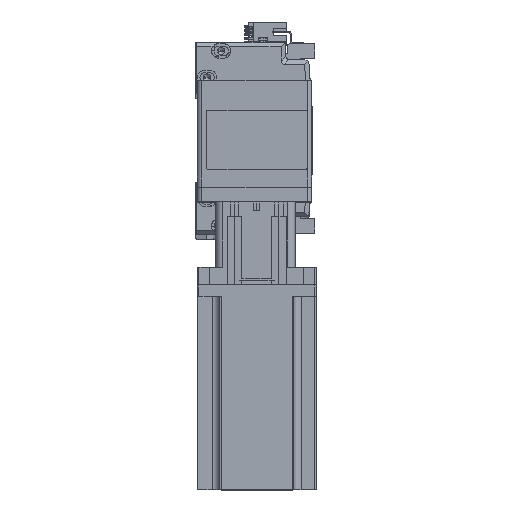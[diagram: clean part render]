
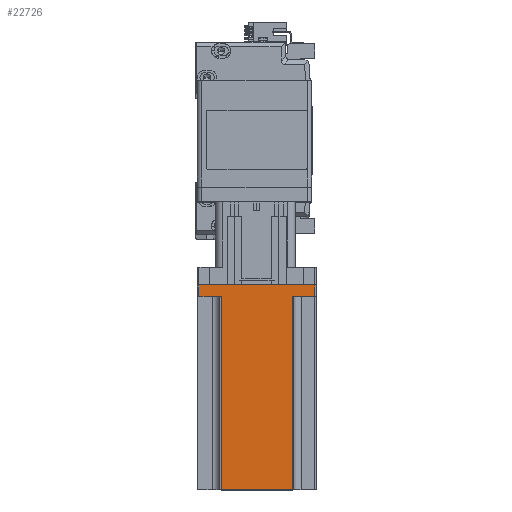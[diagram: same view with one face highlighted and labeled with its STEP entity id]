
A CAD part, top view. The second image highlights one B-rep face of the part: STEP entity #22726.
In plain terms, the highlighted planar face has unit normal (0, 0, 1) as drawn and (0, 1, 0) by its records, which use the part's own axes.
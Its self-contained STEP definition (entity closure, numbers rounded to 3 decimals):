
#1136 = EDGE_CURVE ( 'NONE', #40977, #34385, #40421, .T. ) ;
#2765 = CARTESIAN_POINT ( 'NONE',  ( 39., 40., 138.3 ) ) ;
#3936 = VERTEX_POINT ( 'NONE', #13795 ) ;
#4369 = VECTOR ( 'NONE', #7148, 1000. ) ;
#4620 = EDGE_CURVE ( 'NONE', #23847, #3936, #48119, .T. ) ;
#5743 = LINE ( 'NONE', #32390, #27992 ) ;
#5818 = VERTEX_POINT ( 'NONE', #35954 ) ;
#5836 = ORIENTED_EDGE ( 'NONE', *, *, #57021, .F. ) ;
#5862 = CARTESIAN_POINT ( 'NONE',  ( -39., 40., 8. ) ) ;
#7085 = VECTOR ( 'NONE', #39710, 1000. ) ;
#7148 = DIRECTION ( 'NONE',  ( 0., 0., -1. ) ) ;
#8146 = CARTESIAN_POINT ( 'NONE',  ( -25., 40., 8. ) ) ;
#9369 = EDGE_CURVE ( 'NONE', #5818, #24728, #39918, .T. ) ;
#10647 = LINE ( 'NONE', #2765, #21078 ) ;
#11606 = EDGE_CURVE ( 'NONE', #34385, #23847, #41564, .T. ) ;
#12630 = DIRECTION ( 'NONE',  ( 1., 0., 0. ) ) ;
#12924 = VECTOR ( 'NONE', #37686, 1000. ) ;
#13705 = EDGE_CURVE ( 'NONE', #3936, #27857, #5743, .T. ) ;
#13795 = CARTESIAN_POINT ( 'NONE',  ( -24., 40., 8. ) ) ;
#14965 = ORIENTED_EDGE ( 'NONE', *, *, #13705, .T. ) ;
#15861 = FACE_OUTER_BOUND ( 'NONE', #51097, .T. ) ;
#16229 = ORIENTED_EDGE ( 'NONE', *, *, #17056, .T. ) ;
#17056 = EDGE_CURVE ( 'NONE', #38352, #40977, #10647, .T. ) ;
#18806 = CARTESIAN_POINT ( 'NONE',  ( 40., 40., 138.3 ) ) ;
#18931 = LINE ( 'NONE', #35010, #7085 ) ;
#19100 = CARTESIAN_POINT ( 'NONE',  ( 24., 40., 8. ) ) ;
#20381 = CARTESIAN_POINT ( 'NONE',  ( 24., 40., 138.3 ) ) ;
#21078 = VECTOR ( 'NONE', #38436, 1000. ) ;
#21821 = DIRECTION ( 'NONE',  ( -1., 0., 0. ) ) ;
#22726 = ADVANCED_FACE ( 'NONE', ( #15861 ), #36349, .F. ) ;
#22993 = CARTESIAN_POINT ( 'NONE',  ( -24., 40., 138.3 ) ) ;
#23296 = DIRECTION ( 'NONE',  ( 1., 0., 0. ) ) ;
#23441 = DIRECTION ( 'NONE',  ( 0., 0., 1. ) ) ;
#23847 = VERTEX_POINT ( 'NONE', #5862 ) ;
#24459 = VECTOR ( 'NONE', #12630, 1000. ) ;
#24728 = VERTEX_POINT ( 'NONE', #19100 ) ;
#26906 = ORIENTED_EDGE ( 'NONE', *, *, #9369, .T. ) ;
#27857 = VERTEX_POINT ( 'NONE', #22993 ) ;
#27992 = VECTOR ( 'NONE', #23441, 1000. ) ;
#32390 = CARTESIAN_POINT ( 'NONE',  ( -24., 40., 138.3 ) ) ;
#33772 = CARTESIAN_POINT ( 'NONE',  ( -39., 40., 138.3 ) ) ;
#34385 = VERTEX_POINT ( 'NONE', #43412 ) ;
#35010 = CARTESIAN_POINT ( 'NONE',  ( 40., 40., 138.3 ) ) ;
#35255 = ORIENTED_EDGE ( 'NONE', *, *, #1136, .T. ) ;
#35954 = CARTESIAN_POINT ( 'NONE',  ( 24., 40., 138.3 ) ) ;
#36166 = ORIENTED_EDGE ( 'NONE', *, *, #44203, .F. ) ;
#36349 = PLANE ( 'NONE',  #36975 ) ;
#36660 = LINE ( 'NONE', #42204, #12924 ) ;
#36975 = AXIS2_PLACEMENT_3D ( 'NONE', #18806, #49978, #23296 ) ;
#37528 = CARTESIAN_POINT ( 'NONE',  ( 39., 40., 0. ) ) ;
#37686 = DIRECTION ( 'NONE',  ( -1., 0., 0. ) ) ;
#37816 = ORIENTED_EDGE ( 'NONE', *, *, #4620, .T. ) ;
#38075 = DIRECTION ( 'NONE',  ( 0., 0., 1. ) ) ;
#38352 = VERTEX_POINT ( 'NONE', #52600 ) ;
#38436 = DIRECTION ( 'NONE',  ( 0., 0., -1. ) ) ;
#39710 = DIRECTION ( 'NONE',  ( -1., 0., 0. ) ) ;
#39918 = LINE ( 'NONE', #20381, #4369 ) ;
#40140 = VECTOR ( 'NONE', #38075, 1000. ) ;
#40421 = LINE ( 'NONE', #53388, #50883 ) ;
#40669 = ORIENTED_EDGE ( 'NONE', *, *, #11606, .T. ) ;
#40977 = VERTEX_POINT ( 'NONE', #37528 ) ;
#41564 = LINE ( 'NONE', #33772, #40140 ) ;
#42204 = CARTESIAN_POINT ( 'NONE',  ( 25., 40., 8. ) ) ;
#43412 = CARTESIAN_POINT ( 'NONE',  ( -39., 40., 0. ) ) ;
#44203 = EDGE_CURVE ( 'NONE', #38352, #24728, #36660, .T. ) ;
#48119 = LINE ( 'NONE', #8146, #24459 ) ;
#49978 = DIRECTION ( 'NONE',  ( 0., -1., 0. ) ) ;
#50883 = VECTOR ( 'NONE', #21821, 1000. ) ;
#51097 = EDGE_LOOP ( 'NONE', ( #37816, #14965, #5836, #26906, #36166, #16229, #35255, #40669 ) ) ;
#52600 = CARTESIAN_POINT ( 'NONE',  ( 39., 40., 8. ) ) ;
#53388 = CARTESIAN_POINT ( 'NONE',  ( 40., 40., 0. ) ) ;
#57021 = EDGE_CURVE ( 'NONE', #5818, #27857, #18931, .T. ) ;
